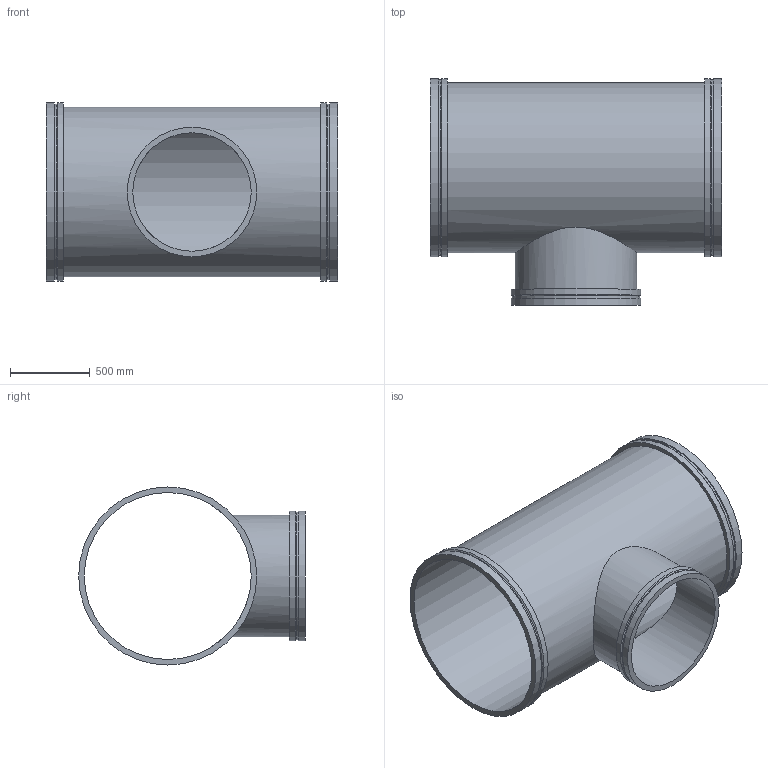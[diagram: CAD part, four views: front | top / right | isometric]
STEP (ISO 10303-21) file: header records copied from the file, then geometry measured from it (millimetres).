
FILE_DESCRIPTION(/* description */ ('VIC REDUCING TEE No W025 VR','CAx-IF Rec.Pracs.---Representation and Presentation of Product Manufacturing Information (PMI)---4.0---2014-10-13'),/* implementation_level */ '2;1');
FILE_NAME(/* name */ 'C:\Users\kkamble\AppData\Roaming\Autodesk\ApplicationPlugins\Back Up\Victaulic_Vic-Ring_Tee Reducing_No W25 VR (AGR)\Victaulic_Vic-Ring_Tee Reducing_No W25 VR (AGR)_42.0x30.0 (1050x750).stp',/* time_stamp */ '2020-09-10T11:56:13+05:00',/* author */ ('mchristi'),/* organization */ ('Victaulic'),/* preprocessor_version */ 'ST-DEVELOPER v17.2',/* originating_system */ 'Autodesk Inventor 2019',/* authorisation */ '');
FILE_SCHEMA (('AP242_MANAGED_MODEL_BASED_3D_ENGINEERING_MIM_LF { 1 0 10303 442 1 1 4 }'));
Length unit declared in the file: inch
Products named in the file (1): W25 VR-42.0x30.0
Bounding box: 1828.8 x 1422.4 x 1117.6 mm (x, y, z)
Volume: 86499903.5 mm3; surface area: 13843470.7 mm2
Topology: 1 solids, 1 shells, 25 faces, 68 edges, 52 vertices
Faces by surface type: cylinder 13, plane 9, cone 3
Full cylindrical faces by diameter (mm): 742.95 x1, 762 x1, 798.322 x1, 812.8 x2, 1047.75 x1, 1066.8 x1, 1101.725 x2, 1117.6 x4
Entity records: 1259 total; most frequent: CARTESIAN_POINT 415, DIRECTION 190, ORIENTED_EDGE 136, AXIS2_PLACEMENT_3D 87, EDGE_CURVE 68, VERTEX_POINT 52, CIRCLE 48, EDGE_LOOP 36
